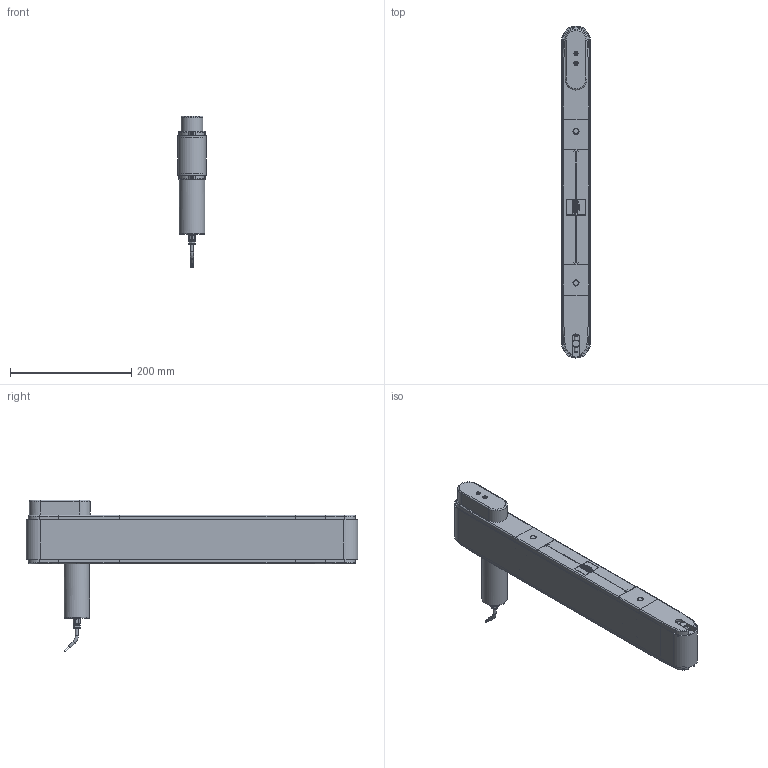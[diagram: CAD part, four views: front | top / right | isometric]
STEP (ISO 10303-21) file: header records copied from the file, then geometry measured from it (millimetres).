
FILE_DESCRIPTION(/* description */ (''),/* implementation_level */ '2;1');
FILE_NAME(/* name */ 'G:\DATEN\CAD\Förderband\Marketing\3D-Modelle (Standard)\FR-40-80-Q\FR-40-80-Q-P-500-K (Motorendrohr 90 mm).stp',/* time_stamp */ '2019-05-08T14:58:05+02:00',/* author */ ('melanie.ochs'),/* organization */ (''),/* preprocessor_version */ 'ST-DEVELOPER v17',/* originating_system */ 'Autodesk Inventor 2019',/* authorisation */ '');
FILE_SCHEMA (('CONFIG_CONTROL_DESIGN'));
Products named in the file (1): FR-40-80-Q-P-500-K (Motorendrohr 90 mm)
Bounding box: 47 x 547 x 250.42 mm (x, y, z)
Volume: 2113364.2 mm3; surface area: 365554.9 mm2
Topology: 7 solids, 13 shells, 1955 faces, 5262 edges, 3502 vertices
Faces by surface type: plane 1016, bspline 760, cylinder 126, cone 34, torus 19
Full cylindrical faces by diameter (mm): 1 x6, 3.242 x2, 4 x4, 4.5 x2, 4.917 x1, 5 x3, 6 x4, 6.773 x1, 7 x2, 8.773 x1, 10 x9, 11 x1, 12 x3, 25 x2, 28 x4, 42 x1, 44 x2
Entity records: 69688 total; most frequent: CARTESIAN_POINT 23625, ORIENTED_EDGE 10522, DIRECTION 6405, EDGE_CURVE 5261, VERTEX_POINT 3502, LINE 3303, VECTOR 3303, EDGE_LOOP 2165
